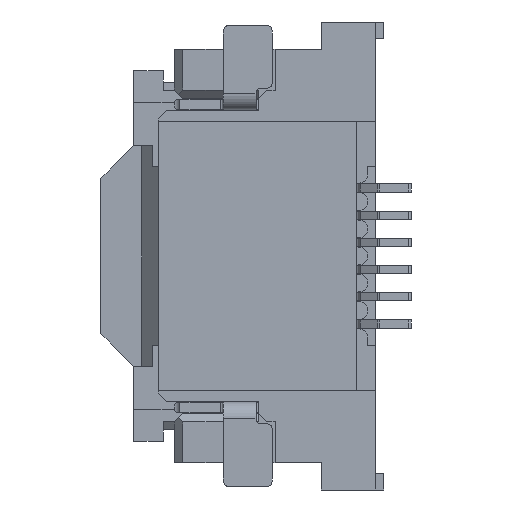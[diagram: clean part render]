
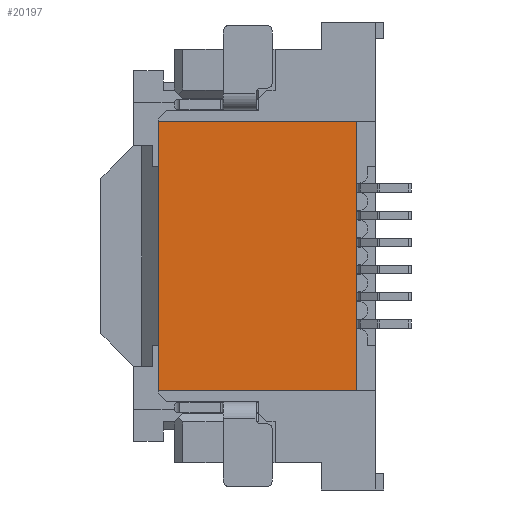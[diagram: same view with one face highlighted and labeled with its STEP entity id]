
A CAD part, left-side view. The second image highlights one B-rep face of the part: STEP entity #20197.
In plain terms, the highlighted planar face has unit normal (-1, 0, 0).
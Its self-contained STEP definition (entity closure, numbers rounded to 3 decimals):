
#2582=DIRECTION('',(0.,0.,-1.));
#2583=VECTOR('',#2582,4.95);
#2584=CARTESIAN_POINT('',(-1.09,2.225,1.975));
#2585=LINE('',#2584,#2583);
#4353=DIRECTION('',(0.,1.,0.));
#4354=VECTOR('',#4353,3.65);
#4355=CARTESIAN_POINT('',(-1.09,-1.425,1.975));
#4356=LINE('',#4355,#4354);
#4357=DIRECTION('',(0.,0.,-1.));
#4358=VECTOR('',#4357,4.95);
#4359=CARTESIAN_POINT('',(-1.09,-1.425,1.975));
#4360=LINE('',#4359,#4358);
#4361=DIRECTION('',(0.,1.,0.));
#4362=VECTOR('',#4361,3.65);
#4363=CARTESIAN_POINT('',(-1.09,-1.425,-2.975));
#4364=LINE('',#4363,#4362);
#11463=CARTESIAN_POINT('',(-1.09,-1.425,-2.975));
#11464=VERTEX_POINT('',#11463);
#11465=CARTESIAN_POINT('',(-1.09,2.225,-2.975));
#11466=VERTEX_POINT('',#11465);
#13164=CARTESIAN_POINT('',(-1.09,-1.425,1.975));
#13165=VERTEX_POINT('',#13164);
#13166=CARTESIAN_POINT('',(-1.09,2.225,1.975));
#13167=VERTEX_POINT('',#13166);
#20185=CARTESIAN_POINT('',(-1.09,0.4,0.));
#20186=DIRECTION('',(1.,0.,0.));
#20187=DIRECTION('',(0.,0.,1.));
#20188=AXIS2_PLACEMENT_3D('',#20185,#20186,#20187);
#20189=PLANE('',#20188);
#20190=ORIENTED_EDGE('',*,*,#17809,.F.);
#20191=ORIENTED_EDGE('',*,*,#19682,.F.);
#20192=ORIENTED_EDGE('',*,*,#20156,.T.);
#20194=ORIENTED_EDGE('',*,*,#20193,.T.);
#20195=EDGE_LOOP('',(#20190,#20191,#20192,#20194));
#20196=FACE_OUTER_BOUND('',#20195,.F.);
#20197=ADVANCED_FACE('',(#20196),#20189,.F.);
#17809=EDGE_CURVE('',#13167,#11466,#2585,.T.);
#19682=EDGE_CURVE('',#13165,#13167,#4356,.T.);
#20156=EDGE_CURVE('',#13165,#11464,#4360,.T.);
#20193=EDGE_CURVE('',#11464,#11466,#4364,.T.);
